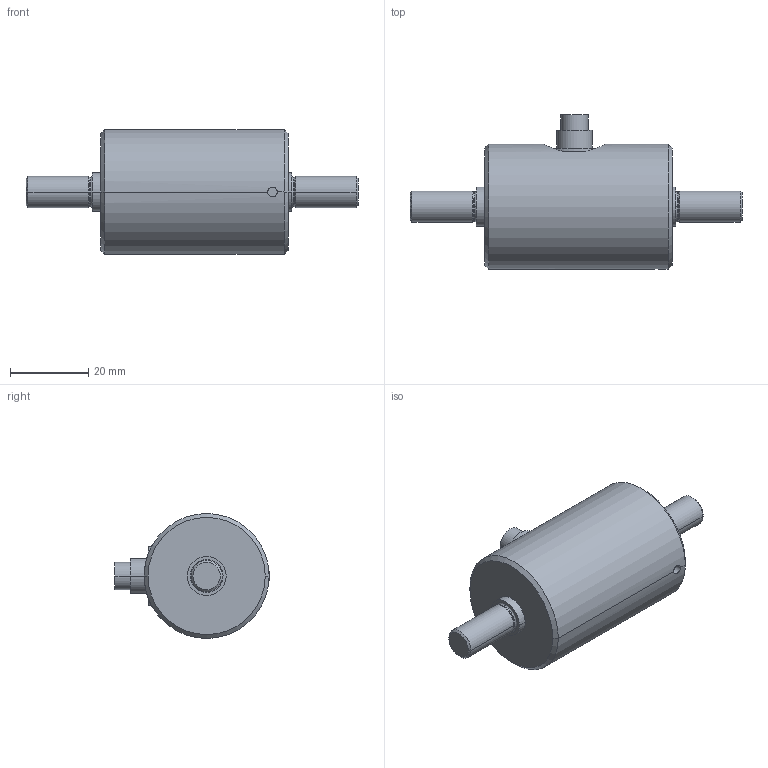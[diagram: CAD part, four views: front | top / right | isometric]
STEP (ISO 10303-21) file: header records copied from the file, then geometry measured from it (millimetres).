
FILE_DESCRIPTION(('STEP AP214'),'1');
FILE_NAME('burster_8625-5005_1csbjormr5wov0ihl43lk9lx3.stp','2017-04-20T16:10:30',('TraceParts'),('TraceParts S.A.'),'Spatial InterOp 3D',' ',' ');
FILE_SCHEMA(('automotive_design'));
Length unit declared in the file: millimetre
Products named in the file (1): burster_8625-5005_1csbjormr5wov0ihl43lk9lx3
Bounding box: 85 x 39.5 x 32 mm (x, y, z)
Volume: 40501.6 mm3; surface area: 7777.5 mm2
Topology: 1 solids, 1 shells, 59 faces, 129 edges, 80 vertices
Faces by surface type: cylinder 26, plane 13, cone 12, bspline 4, torus 4
Entity records: 2717 total; most frequent: CARTESIAN_POINT 905, DIRECTION 295, ORIENTED_EDGE 258, EDGE_CURVE 129, AXIS2_PLACEMENT_3D 126, VERTEX_POINT 80, CIRCLE 70, EDGE_LOOP 67
